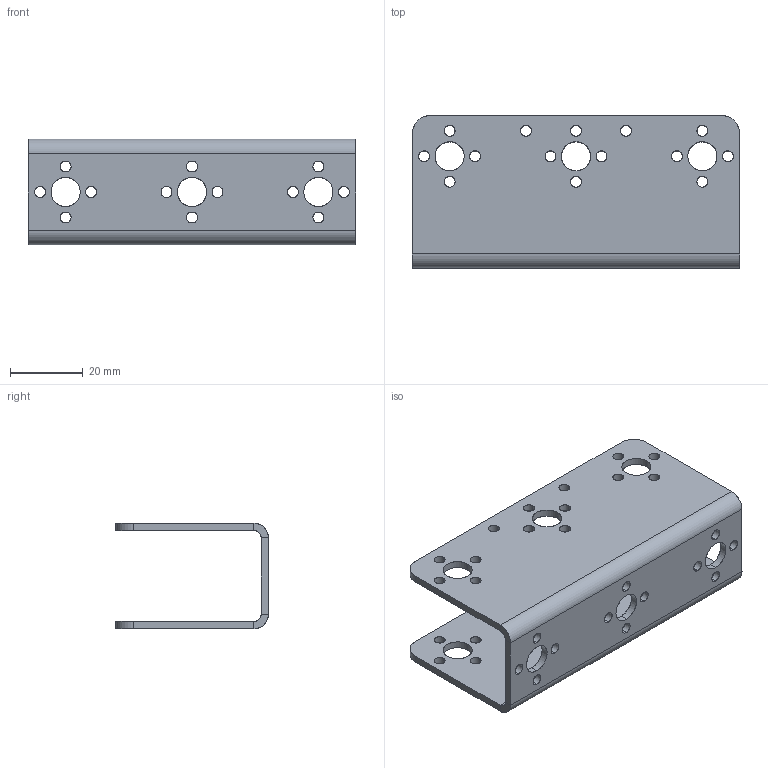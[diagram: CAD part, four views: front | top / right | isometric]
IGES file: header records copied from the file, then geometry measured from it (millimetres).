
Start section: SolidWorks IGES file using analytic representation for surfaces
Global section: file name: C:\Users\Alexandre\Dropbox\Etudes\Solidworks\Servo Mounts\Servo Bracket - Long U_Défaut.igs; native system: SolidWorks 2015; preprocessor: SolidWorks 2015; author: Alexandre; date: 150906.130005; units: millimetre
Bounding box: 90 x 42 x 29 mm (x, y, z)
Surface area: 19618.2 mm2 (no closed solid volume)
Topology: 0 solids, 0 shells, 124 faces, 3752 edges, 3752 vertices
Faces by surface type: revolution 106, bspline 18
